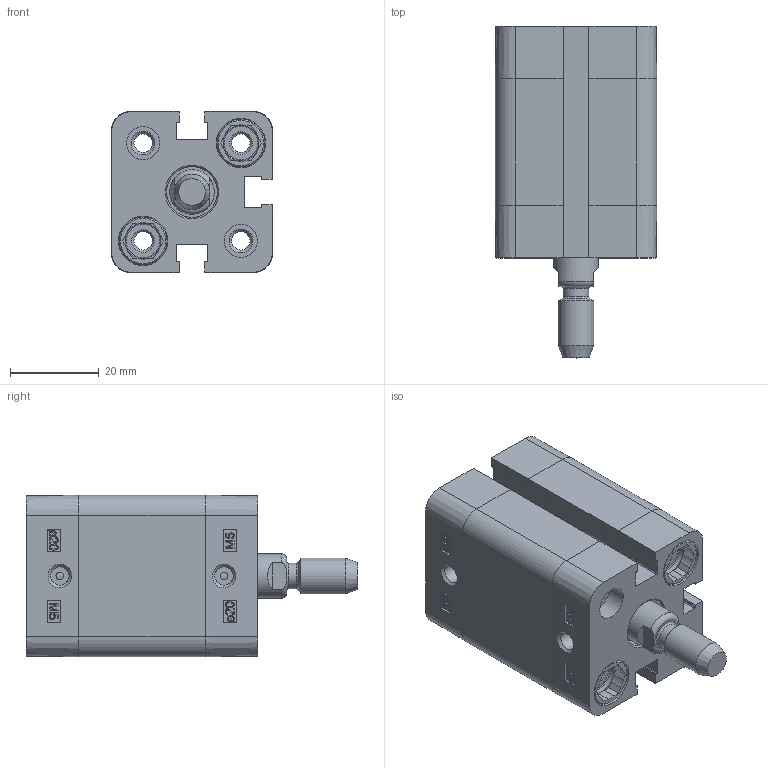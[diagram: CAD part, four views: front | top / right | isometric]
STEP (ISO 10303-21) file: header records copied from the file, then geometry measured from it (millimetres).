
FILE_DESCRIPTION((''),'2;1');
FILE_NAME('T:\Archivio Inventor\- CATALOGHI 2012\SERIE P - NUOVA\PDM\PDM020\PDM020.---.GS.M\STEP\PDM020.020.GS.M.stp','2013-01-30T10:53:26',('Administrator'),(''),'Autodesk Inventor 2012','Autodesk Inventor 2012','');
FILE_SCHEMA(('CONFIG_CONTROL_DESIGN'));
Length unit declared in the file: millimetre
Products named in the file (1): PDM020.020.GS.M
Bounding box: 36.3 x 74.6 x 36.3 mm (x, y, z)
Volume: 42223.3 mm3; surface area: 23536.3 mm2
Topology: 1 solids, 3 shells, 489 faces, 1225 edges, 798 vertices
Faces by surface type: plane 245, bspline 94, cylinder 88, cone 50, torus 12
Full cylindrical faces by diameter (mm): 1.75 x2, 4.134 x10, 5.8 x1, 7.5 x4, 7.55 x2, 8 x9, 9 x1, 10 x1, 10.8 x4, 11.1 x4, 11.4 x1, 20 x1, 22.3 x1, 22.5 x1
Entity records: 15051 total; most frequent: CARTESIAN_POINT 3734, ORIENTED_EDGE 2232, DIRECTION 1950, EDGE_CURVE 1116, VERTEX_POINT 782, VECTOR 670, LINE 670, EDGE_LOOP 652
